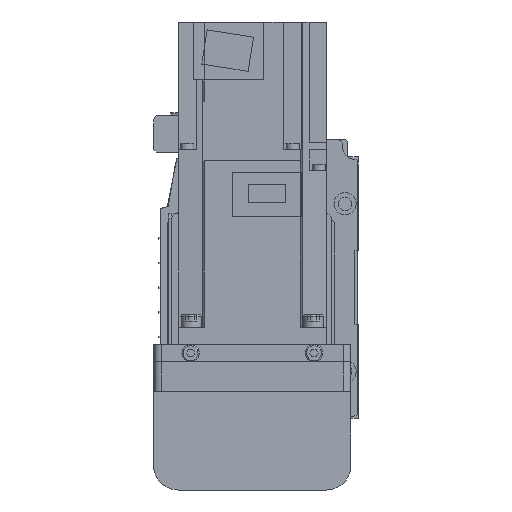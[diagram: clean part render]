
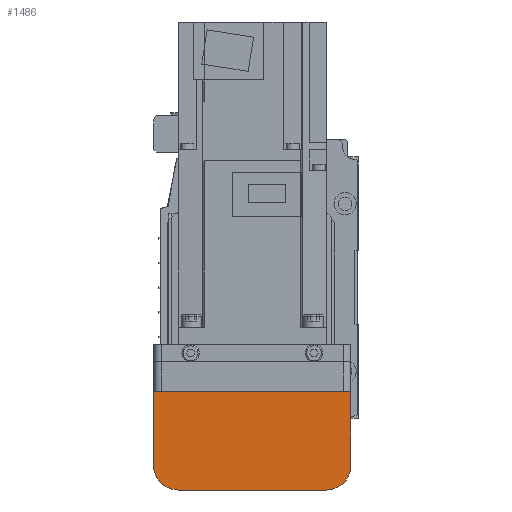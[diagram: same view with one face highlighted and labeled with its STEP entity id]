
A CAD part, left-side view. The second image highlights one B-rep face of the part: STEP entity #1486.
In plain terms, the highlighted planar face has unit normal (-1, 0, 0).
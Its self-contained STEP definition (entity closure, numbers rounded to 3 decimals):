
#1486 = ADVANCED_FACE( '', ( #3405 ), #3406, .F. );
#3405 = FACE_OUTER_BOUND( '', #5869, .T. );
#3406 = PLANE( '', #5870 );
#5869 = EDGE_LOOP( '', ( #9956, #9957, #9958, #9959, #9960, #9961 ) );
#5870 = AXIS2_PLACEMENT_3D( '', #9962, #9963, #9964 );
#9956 = ORIENTED_EDGE( '', *, *, #14535, .F. );
#9957 = ORIENTED_EDGE( '', *, *, #15296, .F. );
#9958 = ORIENTED_EDGE( '', *, *, #15297, .F. );
#9959 = ORIENTED_EDGE( '', *, *, #15298, .F. );
#9960 = ORIENTED_EDGE( '', *, *, #15299, .F. );
#9961 = ORIENTED_EDGE( '', *, *, #15300, .F. );
#9962 = CARTESIAN_POINT( '', ( -192., 37., 7. ) );
#9963 = DIRECTION( '', ( 1., 0., 0. ) );
#9964 = DIRECTION( '', ( 0., 0., -1. ) );
#14535 = EDGE_CURVE( '', #17528, #17022, #17530, .T. );
#15296 = EDGE_CURVE( '', #18731, #17528, #18732, .T. );
#15297 = EDGE_CURVE( '', #18733, #18731, #18734, .T. );
#15298 = EDGE_CURVE( '', #18735, #18733, #18736, .T. );
#15299 = EDGE_CURVE( '', #18737, #18735, #18738, .T. );
#15300 = EDGE_CURVE( '', #17022, #18737, #18739, .T. );
#17022 = VERTEX_POINT( '', #20945 );
#17528 = VERTEX_POINT( '', #21614 );
#17530 = LINE( '', #21617, #21618 );
#18731 = VERTEX_POINT( '', #23259 );
#18732 = LINE( '', #23260, #23261 );
#18733 = VERTEX_POINT( '', #23262 );
#18734 = CIRCLE( '', #23263, 10. );
#18735 = VERTEX_POINT( '', #23264 );
#18736 = LINE( '', #23265, #23266 );
#18737 = VERTEX_POINT( '', #23267 );
#18738 = CIRCLE( '', #23268, 10. );
#18739 = LINE( '', #23269, #23270 );
#20945 = CARTESIAN_POINT( '', ( -192., -40., -12.1 ) );
#21614 = CARTESIAN_POINT( '', ( -192., 40., -12.1 ) );
#21617 = CARTESIAN_POINT( '', ( -192., 50., -12.1 ) );
#21618 = VECTOR( '', #25913, 1000. );
#23259 = CARTESIAN_POINT( '', ( -192., 40., -42. ) );
#23260 = CARTESIAN_POINT( '', ( -192., 40., -42. ) );
#23261 = VECTOR( '', #26840, 1000. );
#23262 = CARTESIAN_POINT( '', ( -192., 30., -52. ) );
#23263 = AXIS2_PLACEMENT_3D( '', #26841, #26842, #26843 );
#23264 = CARTESIAN_POINT( '', ( -192., -30., -52. ) );
#23265 = CARTESIAN_POINT( '', ( -192., -30., -52. ) );
#23266 = VECTOR( '', #26844, 1000. );
#23267 = CARTESIAN_POINT( '', ( -192., -40., -42. ) );
#23268 = AXIS2_PLACEMENT_3D( '', #26845, #26846, #26847 );
#23269 = CARTESIAN_POINT( '', ( -192., -40., -12.1 ) );
#23270 = VECTOR( '', #26848, 1000. );
#25913 = DIRECTION( '', ( 0., -1., 0. ) );
#26840 = DIRECTION( '', ( 0., 0., 1. ) );
#26841 = CARTESIAN_POINT( '', ( -192., 30., -42. ) );
#26842 = DIRECTION( '', ( 1., 0., 0. ) );
#26843 = DIRECTION( '', ( 0., 0., -1. ) );
#26844 = DIRECTION( '', ( 0., 1., 0. ) );
#26845 = CARTESIAN_POINT( '', ( -192., -30., -42. ) );
#26846 = DIRECTION( '', ( 1., 0., 0. ) );
#26847 = DIRECTION( '', ( 0., 0., -1. ) );
#26848 = DIRECTION( '', ( 0., 0., -1. ) );
